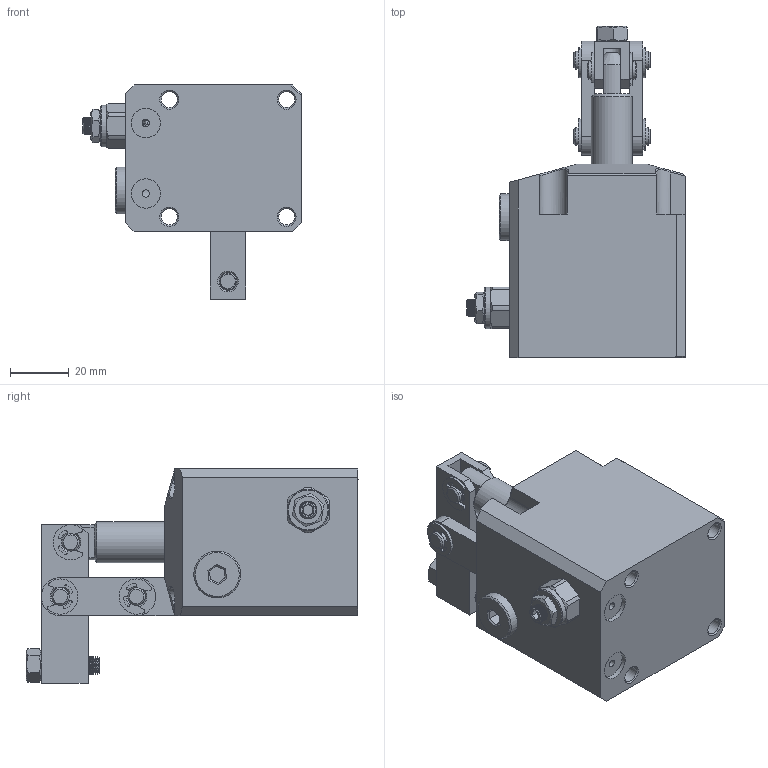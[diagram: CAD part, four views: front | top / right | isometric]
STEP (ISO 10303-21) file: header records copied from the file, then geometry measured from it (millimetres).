
FILE_DESCRIPTION(/* description */ ('STEP AP203'),/* implementation_level */ '2;1');
FILE_NAME(/* name */ 'D:\Vault_2016\Projekty\Clamptek\Hydraulic\CBLU\CBLU-30\STEP\CBLU-30CL.stp',/* time_stamp */ '2021-05-06T12:07:01+02:00',/* author */ ('user'),/* organization */ (''),/* preprocessor_version */ 'ST-DEVELOPER v18.1',/* originating_system */ 'Autodesk Inventor 2021',/* authorisation */ '');
FILE_SCHEMA (('AUTOMOTIVE_DESIGN { 1 0 10303 214 3 1 1 }'));
Length unit declared in the file: millimetre
Products named in the file (13): CBLU-30CL; ±¾ÌåCL_1_1; Áù½Ç¶ÂÍ·; hex thin nuts-grades ab-chamfered gb_GB_FASTENER_NUT_STNAB M6-N; µ÷ËÙ·§A_1; 30Á¬¸Ë_2; hex nuts, style 1-grades ab gb_GB_FASTENER_NUT_SNAB1 M6-N_1; hexagon socket head cap screws gb_GB_FASTENER_SCREWS_HSHCS M6X25-S_1_
1; ³¤ÏúÖá_1_1; 30¶ÌÏúÖá_2; 30»îÈû¸Ë_1_1; 30Ñ¹°å_1; e rings gb_GB_CONNECTING_PIECE_RINGS_HR 6_1_1
Assembly tree (19 placements, depth 2):
  CBLU-30CL
    ±¾ÌåCL_1_1
    Áù½Ç¶ÂÍ·
    hex thin nuts-grades ab-chamfered gb_GB_FASTENER_NUT_STNAB M6-N
    µ÷ËÙ·§A_1
    30Á¬¸Ë_2  x2
    hex nuts, style 1-grades ab gb_GB_FASTENER_NUT_SNAB1 M6-N_1
    hexagon socket head cap screws gb_GB_FASTENER_SCREWS_HSHCS M6X25-S_1_
1
    ³¤ÏúÖá_1_1  x2
    e rings gb_GB_CONNECTING_PIECE_RINGS_HR 6_1_1  x6
    30¶ÌÏúÖá_2
    30»îÈû¸Ë_1_1
    30Ñ¹°å_1
Bounding box: 74.5 x 113.2 x 73 mm (x, y, z)
Volume: 188916.1 mm3; surface area: 47719.7 mm2
Topology: 19 solids, 19 shells, 535 faces, 1350 edges, 878 vertices
Faces by surface type: plane 206, cylinder 186, cone 129, bspline 14
Full cylindrical faces by diameter (mm): 2 x2, 2.5 x1, 4.9 x3, 4.917 x2, 5 x3, 5.5 x4, 6 x64, 8 x3, 8.069 x1, 8.7 x1, 9.4 x1, 10 x2, 10.3 x1, 12.7 x1, 14 x2, 14.2 x1, 16 x1, 30 x2
Entity records: 18167 total; most frequent: CARTESIAN_POINT 7615, DIRECTION 2219, ORIENTED_EDGE 2062, EDGE_CURVE 1031, AXIS2_PLACEMENT_3D 854, VERTEX_POINT 666, LINE 511, VECTOR 511
